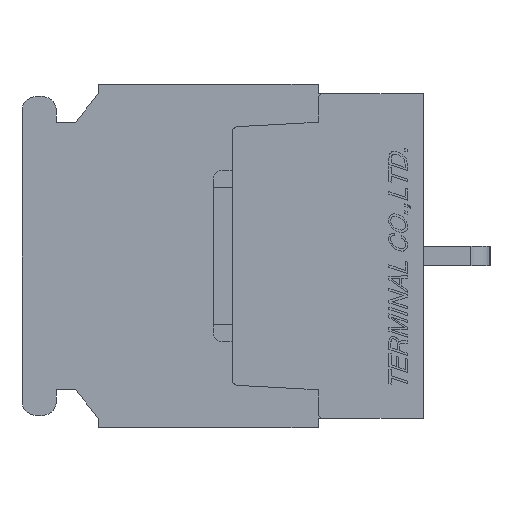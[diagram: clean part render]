
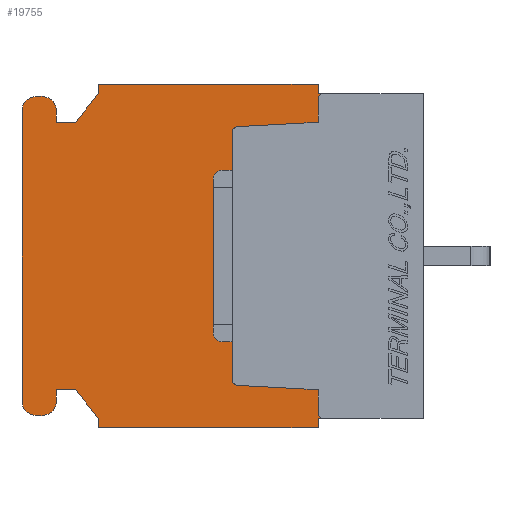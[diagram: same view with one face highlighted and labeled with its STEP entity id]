
A CAD part, left-side view. The second image highlights one B-rep face of the part: STEP entity #19755.
In plain terms, the highlighted planar face has unit normal (-1, 0, 0).
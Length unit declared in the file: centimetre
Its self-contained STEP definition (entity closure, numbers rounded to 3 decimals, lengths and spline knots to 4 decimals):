
#981=CIRCLE('',#33434,0.03);
#983=CIRCLE('',#33437,0.03);
#985=CIRCLE('',#33442,0.03);
#989=CIRCLE('',#33448,0.03);
#997=CIRCLE('',#33605,0.075);
#998=CIRCLE('',#33606,0.075);
#999=CIRCLE('',#33607,0.075);
#1000=CIRCLE('',#33608,0.075);
#1662=VERTEX_POINT('',#27007);
#1663=VERTEX_POINT('',#27009);
#1666=VERTEX_POINT('',#27016);
#1667=VERTEX_POINT('',#27018);
#1669=VERTEX_POINT('',#27024);
#1671=VERTEX_POINT('',#27030);
#1673=VERTEX_POINT('',#27036);
#1678=VERTEX_POINT('',#27048);
#1679=VERTEX_POINT('',#27050);
#1681=VERTEX_POINT('',#27056);
#2040=VERTEX_POINT('',#28626);
#2041=VERTEX_POINT('',#28628);
#2042=VERTEX_POINT('',#28630);
#2043=VERTEX_POINT('',#28632);
#2044=VERTEX_POINT('',#28634);
#2045=VERTEX_POINT('',#28636);
#2046=VERTEX_POINT('',#28638);
#2047=VERTEX_POINT('',#28640);
#2048=VERTEX_POINT('',#28642);
#2049=VERTEX_POINT('',#28644);
#2050=VERTEX_POINT('',#28646);
#2051=VERTEX_POINT('',#28648);
#2052=VERTEX_POINT('',#28650);
#2053=VERTEX_POINT('',#28652);
#2054=VERTEX_POINT('',#28654);
#2055=VERTEX_POINT('',#28656);
#2056=VERTEX_POINT('',#28658);
#2057=VERTEX_POINT('',#28660);
#2058=VERTEX_POINT('',#28662);
#2059=VERTEX_POINT('',#28664);
#3752=VECTOR('',#22150,1.);
#3755=VECTOR('',#22154,1.);
#3761=VECTOR('',#22178,1.);
#3764=VECTOR('',#22182,1.);
#4166=VECTOR('',#22716,1.);
#4193=VECTOR('',#22776,1.);
#4194=VECTOR('',#22777,1.);
#4195=VECTOR('',#22778,1.);
#4196=VECTOR('',#22779,1.);
#4197=VECTOR('',#22780,1.);
#4198=VECTOR('',#22781,1.);
#4199=VECTOR('',#22782,1.);
#4200=VECTOR('',#22785,1.);
#4201=VECTOR('',#22788,1.);
#4202=VECTOR('',#22791,1.);
#4203=VECTOR('',#22794,1.);
#4204=VECTOR('',#22795,1.);
#4205=VECTOR('',#22796,1.);
#4206=VECTOR('',#22797,1.);
#4207=VECTOR('',#22798,1.);
#4208=VECTOR('',#22799,1.);
#4209=VECTOR('',#22800,1.);
#6006=LINE('',#27023,#3752);
#6009=LINE('',#27029,#3755);
#6015=LINE('',#27055,#3761);
#6018=LINE('',#27060,#3764);
#6420=LINE('',#28557,#4166);
#6447=LINE('',#28625,#4193);
#6448=LINE('',#28627,#4194);
#6449=LINE('',#28629,#4195);
#6450=LINE('',#28631,#4196);
#6451=LINE('',#28633,#4197);
#6452=LINE('',#28635,#4198);
#6453=LINE('',#28637,#4199);
#6454=LINE('',#28641,#4200);
#6455=LINE('',#28645,#4201);
#6456=LINE('',#28649,#4202);
#6457=LINE('',#28653,#4203);
#6458=LINE('',#28655,#4204);
#6459=LINE('',#28657,#4205);
#6460=LINE('',#28659,#4206);
#6461=LINE('',#28661,#4207);
#6462=LINE('',#28663,#4208);
#6463=LINE('',#28665,#4209);
#8415=EDGE_CURVE('',#1662,#1663,#981,.T.);
#8419=EDGE_CURVE('',#1666,#1667,#983,.T.);
#8422=EDGE_CURVE('',#1667,#1669,#6006,.T.);
#8425=EDGE_CURVE('',#1669,#1671,#6009,.T.);
#8428=EDGE_CURVE('',#1671,#1673,#985,.T.);
#8434=EDGE_CURVE('',#1678,#1679,#989,.T.);
#8437=EDGE_CURVE('',#1679,#1681,#6015,.T.);
#8440=EDGE_CURVE('',#1681,#1662,#6018,.T.);
#8948=EDGE_CURVE('',#1673,#1678,#6420,.T.);
#8981=EDGE_CURVE('',#1666,#2040,#6447,.T.);
#8982=EDGE_CURVE('',#2040,#2041,#6448,.T.);
#8983=EDGE_CURVE('',#2041,#2042,#6449,.T.);
#8984=EDGE_CURVE('',#2042,#2043,#6450,.T.);
#8985=EDGE_CURVE('',#2043,#2044,#6451,.T.);
#8986=EDGE_CURVE('',#2044,#2045,#6452,.T.);
#8987=EDGE_CURVE('',#2045,#2046,#6453,.T.);
#8988=EDGE_CURVE('',#2047,#2046,#997,.T.);
#8989=EDGE_CURVE('',#2047,#2048,#6454,.T.);
#8990=EDGE_CURVE('',#2049,#2048,#998,.T.);
#8991=EDGE_CURVE('',#2049,#2050,#6455,.T.);
#8992=EDGE_CURVE('',#2051,#2050,#999,.T.);
#8993=EDGE_CURVE('',#2051,#2052,#6456,.T.);
#8994=EDGE_CURVE('',#2053,#2052,#1000,.T.);
#8995=EDGE_CURVE('',#2053,#2054,#6457,.T.);
#8996=EDGE_CURVE('',#2054,#2055,#6458,.T.);
#8997=EDGE_CURVE('',#2055,#2056,#6459,.T.);
#8998=EDGE_CURVE('',#2056,#2057,#6460,.T.);
#8999=EDGE_CURVE('',#2057,#2058,#6461,.T.);
#9000=EDGE_CURVE('',#2058,#2059,#6462,.T.);
#9001=EDGE_CURVE('',#2059,#1663,#6463,.T.);
#13218=ORIENTED_EDGE('',*,*,#8419,.F.);
#13219=ORIENTED_EDGE('',*,*,#8981,.T.);
#13220=ORIENTED_EDGE('',*,*,#8982,.T.);
#13221=ORIENTED_EDGE('',*,*,#8983,.T.);
#13222=ORIENTED_EDGE('',*,*,#8984,.T.);
#13223=ORIENTED_EDGE('',*,*,#8985,.T.);
#13224=ORIENTED_EDGE('',*,*,#8986,.T.);
#13225=ORIENTED_EDGE('',*,*,#8987,.T.);
#13226=ORIENTED_EDGE('',*,*,#8988,.F.);
#13227=ORIENTED_EDGE('',*,*,#8989,.T.);
#13228=ORIENTED_EDGE('',*,*,#8990,.F.);
#13229=ORIENTED_EDGE('',*,*,#8991,.T.);
#13230=ORIENTED_EDGE('',*,*,#8992,.F.);
#13231=ORIENTED_EDGE('',*,*,#8993,.T.);
#13232=ORIENTED_EDGE('',*,*,#8994,.F.);
#13233=ORIENTED_EDGE('',*,*,#8995,.T.);
#13234=ORIENTED_EDGE('',*,*,#8996,.T.);
#13235=ORIENTED_EDGE('',*,*,#8997,.T.);
#13236=ORIENTED_EDGE('',*,*,#8998,.T.);
#13237=ORIENTED_EDGE('',*,*,#8999,.T.);
#13238=ORIENTED_EDGE('',*,*,#9000,.T.);
#13239=ORIENTED_EDGE('',*,*,#9001,.T.);
#13240=ORIENTED_EDGE('',*,*,#8415,.F.);
#13241=ORIENTED_EDGE('',*,*,#8440,.F.);
#13242=ORIENTED_EDGE('',*,*,#8437,.F.);
#13243=ORIENTED_EDGE('',*,*,#8434,.F.);
#13244=ORIENTED_EDGE('',*,*,#8948,.F.);
#13245=ORIENTED_EDGE('',*,*,#8428,.F.);
#13246=ORIENTED_EDGE('',*,*,#8425,.F.);
#13247=ORIENTED_EDGE('',*,*,#8422,.F.);
#17260=EDGE_LOOP('',(#13218,#13219,#13220,#13221,#13222,#13223,#13224,#13225,
#13226,#13227,#13228,#13229,#13230,#13231,#13232,#13233,#13234,#13235,#13236,
#13237,#13238,#13239,#13240,#13241,#13242,#13243,#13244,#13245,#13246,#13247));
#18532=FACE_BOUND('',#17260,.T.);
#19755=ADVANCED_FACE('',(#18532),#20772,.F.);
#20772=PLANE('',#33604);
#22137=DIRECTION('',(-1.,0.,0.));
#22138=DIRECTION('',(0.,0.,0.03));
#22145=DIRECTION('',(-1.,0.,0.));
#22146=DIRECTION('',(0.,0.,0.03));
#22150=DIRECTION('',(0.,0.,-1.));
#22154=DIRECTION('',(0.,0.999,-0.054));
#22160=DIRECTION('',(-1.,0.,0.));
#22161=DIRECTION('',(0.,0.,0.03));
#22173=DIRECTION('',(-1.,0.,0.));
#22174=DIRECTION('',(0.,0.,0.03));
#22178=DIRECTION('',(0.,-0.999,-0.054));
#22182=DIRECTION('',(0.,0.,-1.));
#22716=DIRECTION('',(0.,0.,-1.));
#22775=DIRECTION('',(1.,0.,0.));
#22776=DIRECTION('',(0.,1.,0.));
#22777=DIRECTION('',(0.,0.,1.));
#22778=DIRECTION('',(0.,1.,0.));
#22779=DIRECTION('',(0.,0.,-1.));
#22780=DIRECTION('',(0.,0.625,-0.781));
#22781=DIRECTION('',(0.,1.,0.));
#22782=DIRECTION('',(0.,0.,1.));
#22783=DIRECTION('',(1.,0.,0.));
#22784=DIRECTION('',(0.,0.,-0.075));
#22785=DIRECTION('',(0.,1.,0.));
#22786=DIRECTION('',(1.,0.,0.));
#22787=DIRECTION('',(0.,0.,-0.075));
#22788=DIRECTION('',(0.,0.,-1.));
#22789=DIRECTION('',(1.,0.,0.));
#22790=DIRECTION('',(0.,0.,-0.075));
#22791=DIRECTION('',(0.,-1.,0.));
#22792=DIRECTION('',(1.,0.,0.));
#22793=DIRECTION('',(0.,0.,-0.075));
#22794=DIRECTION('',(0.,0.,1.));
#22795=DIRECTION('',(0.,-1.,0.));
#22796=DIRECTION('',(0.,-0.625,-0.781));
#22797=DIRECTION('',(0.,0.,-1.));
#22798=DIRECTION('',(0.,-1.,0.));
#22799=DIRECTION('',(0.,0.,1.));
#22800=DIRECTION('',(0.,-1.,0.));
#27007=CARTESIAN_POINT('',(-1.3,0.55,-0.82));
#27008=CARTESIAN_POINT('',(-1.3,0.52,-0.82));
#27009=CARTESIAN_POINT('',(-1.3,0.52,-0.85));
#27016=CARTESIAN_POINT('',(-1.3,0.52,0.85));
#27017=CARTESIAN_POINT('',(-1.3,0.52,0.82));
#27018=CARTESIAN_POINT('',(-1.3,0.55,0.82));
#27023=CARTESIAN_POINT('',(-1.3,0.55,0.82));
#27024=CARTESIAN_POINT('',(-1.3,0.55,0.7));
#27029=CARTESIAN_POINT('',(-1.3,0.55,0.7));
#27030=CARTESIAN_POINT('',(-1.3,0.9718,0.6773));
#27035=CARTESIAN_POINT('',(-1.3,0.97,0.6473));
#27036=CARTESIAN_POINT('',(-1.3,1.,0.6473));
#27048=CARTESIAN_POINT('',(-1.3,1.,-0.6473));
#27049=CARTESIAN_POINT('',(-1.3,0.97,-0.6473));
#27050=CARTESIAN_POINT('',(-1.3,0.9718,-0.6773));
#27055=CARTESIAN_POINT('',(-1.3,0.9718,-0.6773));
#27056=CARTESIAN_POINT('',(-1.3,0.55,-0.7));
#27060=CARTESIAN_POINT('',(-1.3,0.55,-0.7));
#28557=CARTESIAN_POINT('',(-1.3,1.,0.6473));
#28624=CARTESIAN_POINT('',(-1.3,1.0745,0.));
#28625=CARTESIAN_POINT('',(-1.3,0.,0.85));
#28626=CARTESIAN_POINT('',(-1.3,0.55,0.85));
#28627=CARTESIAN_POINT('',(-1.3,0.55,0.85));
#28628=CARTESIAN_POINT('',(-1.3,0.55,0.9));
#28629=CARTESIAN_POINT('',(-1.3,0.55,0.9));
#28630=CARTESIAN_POINT('',(-1.3,1.7,0.9));
#28631=CARTESIAN_POINT('',(-1.3,1.7,0.9));
#28632=CARTESIAN_POINT('',(-1.3,1.7,0.85));
#28633=CARTESIAN_POINT('',(-1.3,1.7,0.85));
#28634=CARTESIAN_POINT('',(-1.3,1.82,0.7));
#28635=CARTESIAN_POINT('',(-1.3,1.82,0.7));
#28636=CARTESIAN_POINT('',(-1.3,1.92,0.7));
#28637=CARTESIAN_POINT('',(-1.3,1.92,0.7));
#28638=CARTESIAN_POINT('',(-1.3,1.92,0.76));
#28639=CARTESIAN_POINT('',(-1.3,1.995,0.76));
#28640=CARTESIAN_POINT('',(-1.3,1.995,0.835));
#28641=CARTESIAN_POINT('',(-1.3,1.995,0.835));
#28642=CARTESIAN_POINT('',(-1.3,2.025,0.835));
#28643=CARTESIAN_POINT('',(-1.3,2.025,0.76));
#28644=CARTESIAN_POINT('',(-1.3,2.1,0.76));
#28645=CARTESIAN_POINT('',(-1.3,2.1,0.76));
#28646=CARTESIAN_POINT('',(-1.3,2.1,-0.76));
#28647=CARTESIAN_POINT('',(-1.3,2.025,-0.76));
#28648=CARTESIAN_POINT('',(-1.3,2.025,-0.835));
#28649=CARTESIAN_POINT('',(-1.3,2.025,-0.835));
#28650=CARTESIAN_POINT('',(-1.3,1.995,-0.835));
#28651=CARTESIAN_POINT('',(-1.3,1.995,-0.76));
#28652=CARTESIAN_POINT('',(-1.3,1.92,-0.76));
#28653=CARTESIAN_POINT('',(-1.3,1.92,-0.76));
#28654=CARTESIAN_POINT('',(-1.3,1.92,-0.7));
#28655=CARTESIAN_POINT('',(-1.3,1.92,-0.7));
#28656=CARTESIAN_POINT('',(-1.3,1.82,-0.7));
#28657=CARTESIAN_POINT('',(-1.3,1.82,-0.7));
#28658=CARTESIAN_POINT('',(-1.3,1.7,-0.85));
#28659=CARTESIAN_POINT('',(-1.3,1.7,-0.85));
#28660=CARTESIAN_POINT('',(-1.3,1.7,-0.9));
#28661=CARTESIAN_POINT('',(-1.3,1.7,-0.9));
#28662=CARTESIAN_POINT('',(-1.3,0.55,-0.9));
#28663=CARTESIAN_POINT('',(-1.3,0.55,-0.9));
#28664=CARTESIAN_POINT('',(-1.3,0.55,-0.85));
#28665=CARTESIAN_POINT('',(-1.3,0.55,-0.85));
#33434=AXIS2_PLACEMENT_3D('',#27008,#22137,#22138);
#33437=AXIS2_PLACEMENT_3D('',#27017,#22145,#22146);
#33442=AXIS2_PLACEMENT_3D('',#27035,#22160,#22161);
#33448=AXIS2_PLACEMENT_3D('',#27049,#22173,#22174);
#33604=AXIS2_PLACEMENT_3D('',#28624,#22775,$);
#33605=AXIS2_PLACEMENT_3D('',#28639,#22783,#22784);
#33606=AXIS2_PLACEMENT_3D('',#28643,#22786,#22787);
#33607=AXIS2_PLACEMENT_3D('',#28647,#22789,#22790);
#33608=AXIS2_PLACEMENT_3D('',#28651,#22792,#22793);
